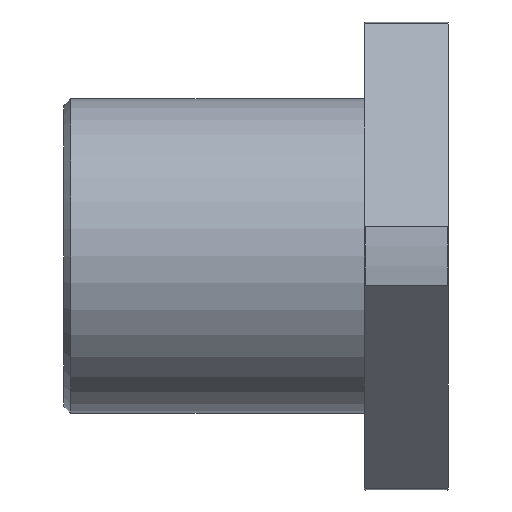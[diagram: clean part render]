
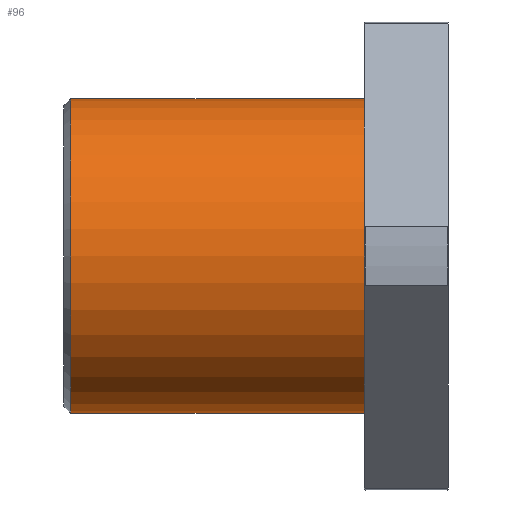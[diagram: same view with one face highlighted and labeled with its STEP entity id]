
A CAD part, front view. The second image highlights one B-rep face of the part: STEP entity #96.
In plain terms, the highlighted cylindrical face has radius 45 mm (diameter 90 mm), a full revolution.
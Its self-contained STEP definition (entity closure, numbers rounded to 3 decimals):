
#96=ADVANCED_FACE('',(#167,#168),#169,.T.);
#167=FACE_OUTER_BOUND('',#261,.T.);
#168=FACE_OUTER_BOUND('',#262,.T.);
#169=CYLINDRICAL_SURFACE('',#263,45.0);
#261=EDGE_LOOP('',(#423));
#262=EDGE_LOOP('',(#424));
#263=AXIS2_PLACEMENT_3D('',#425,#426,#427);
#423=ORIENTED_EDGE('',*,*,#586,.F.);
#424=ORIENTED_EDGE('',*,*,#585,.T.);
#425=CARTESIAN_POINT('',(-110.0,0.0,0.0));
#426=DIRECTION('',(-1.0,-0.0,-0.0));
#427=DIRECTION('',(0.0,0.0,-1.0));
#585=EDGE_CURVE('',#697,#697,#698,.T.);
#586=EDGE_CURVE('',#699,#699,#700,.T.);
#697=VERTEX_POINT('',#863);
#698=CIRCLE('',#864,45.0);
#699=VERTEX_POINT('',#865);
#700=CIRCLE('',#866,45.0);
#863=CARTESIAN_POINT('',(-108.0,0.0,-45.0));
#864=AXIS2_PLACEMENT_3D('',#1004,#1005,#1006);
#865=CARTESIAN_POINT('',(-24.0,0.0,-45.0));
#866=AXIS2_PLACEMENT_3D('',#1007,#1008,#1009);
#1004=CARTESIAN_POINT('',(-108.0,0.0,0.0));
#1005=DIRECTION('',(1.0,0.0,0.0));
#1006=DIRECTION('',(0.0,0.0,-1.0));
#1007=CARTESIAN_POINT('',(-24.0,0.0,0.0));
#1008=DIRECTION('',(1.0,0.0,0.0));
#1009=DIRECTION('',(0.0,0.0,-1.0));
